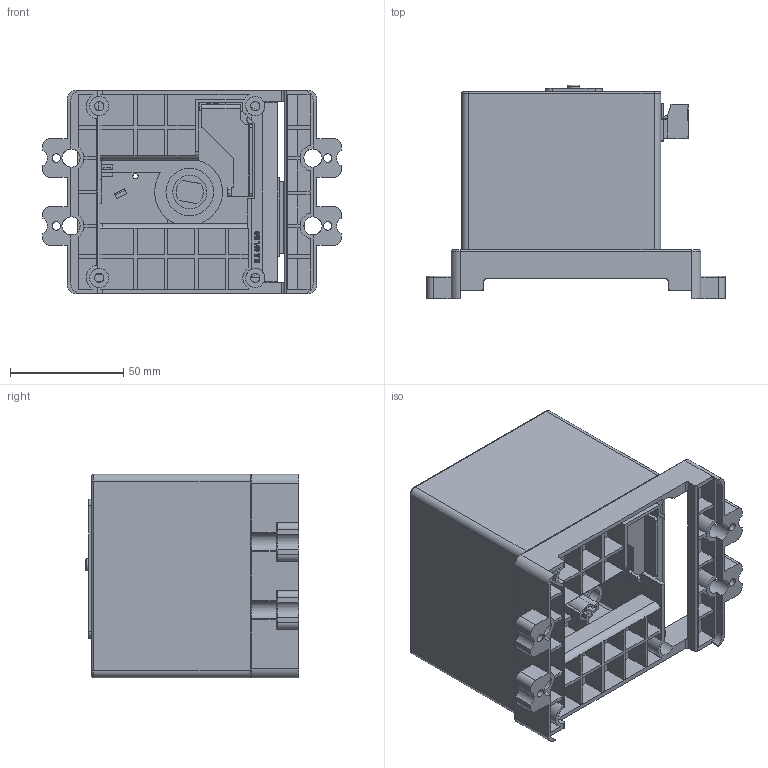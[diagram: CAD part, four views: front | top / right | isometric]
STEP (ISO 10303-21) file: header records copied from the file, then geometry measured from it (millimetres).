
FILE_DESCRIPTION(/* description */ (''),/* implementation_level */ '2;1');
FILE_NAME(/* name */ 'MOT16GP_3D DATA.stp',/* time_stamp */ '2017-12-26T17:20:28+09:00',/* author */ (''),/* organization */ (''),/* preprocessor_version */ 'ST-DEVELOPER v15',/* originating_system */ 'SIEMENS PLM Software NX 9.0',/* authorisation */ '');
FILE_SCHEMA (('AP203_CONFIGURATION_CONTROLLED_3D_DESIGN_OF_MECHANICAL_PARTS_AND_ASSEMBLIES_MIM_LF { 1 0 10303 403 2 1 2}'));
Products named in the file (11): _____id96_x_t; 12GM__WL8.310.237.2_id91_x_t; CD4B-16GP_id86_x_t; WL8.310.235.2_____id81_x_t; CD9-250____-POM-WL8.261.xd_id76_x_t; 6__________5.08_id71_x_t; _____________id66_x_t; 16GP____WL8.024.659_id61_x_t; MOT-16GP-_______WL8.235.436__id56_x_t; WL8.253.070 HY____-ABS_id51_x_t; CD4B-16GP_x_t
Assembly tree (10 placements, depth 2):
  CD4B-16GP_x_t
    WL8.253.070 HY____-ABS_id51_x_t
    MOT-16GP-_______WL8.235.436__id56_x_t
    16GP____WL8.024.659_id61_x_t
    _____________id66_x_t
    6__________5.08_id71_x_t
    CD9-250____-POM-WL8.261.xd_id76_x_t
    WL8.310.235.2_____id81_x_t
    CD4B-16GP_id86_x_t
    12GM__WL8.310.237.2_id91_x_t
    _____id96_x_t
Bounding box: 132 x 94.5 x 90 mm (x, y, z)
Volume: 147634.1 mm3; surface area: 155715.3 mm2
Topology: 10 solids, 10 shells, 2118 faces, 5828 edges, 3783 vertices
Faces by surface type: plane 1496, cylinder 379, extrusion 137, torus 68, cone 21, bspline 9, sphere 8
Full cylindrical faces by diameter (mm): 1.9 x2, 2.15 x2, 2.3 x1, 2.4 x1, 2.8 x6, 3.2 x3, 3.5 x2, 3.7 x10, 4 x1, 4.1 x4, 4.2 x1, 5.2 x1, 5.5 x2, 6 x2, 6.5 x4, 7 x1, 7.5 x2, 8 x4, 8.5 x3, 9 x1, 10 x1, 10.5 x2, 15 x1, 18 x1, 21 x1, 24 x1
Entity records: 73893 total; most frequent: CARTESIAN_POINT 19121, ORIENTED_EDGE 11432, DIRECTION 10414, EDGE_CURVE 5716, VECTOR 4576, LINE 4439, VERTEX_POINT 3751, AXIS2_PLACEMENT_3D 2919
